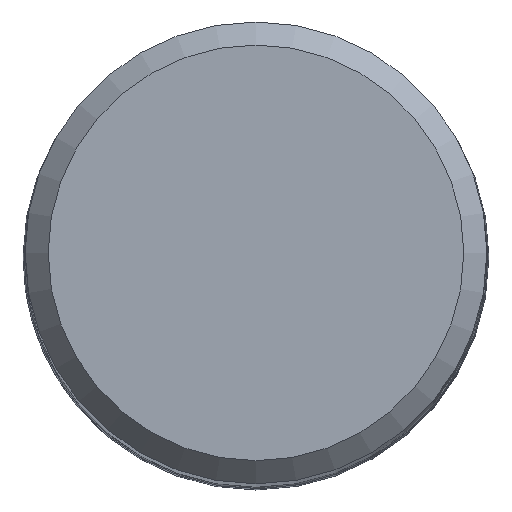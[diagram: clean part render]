
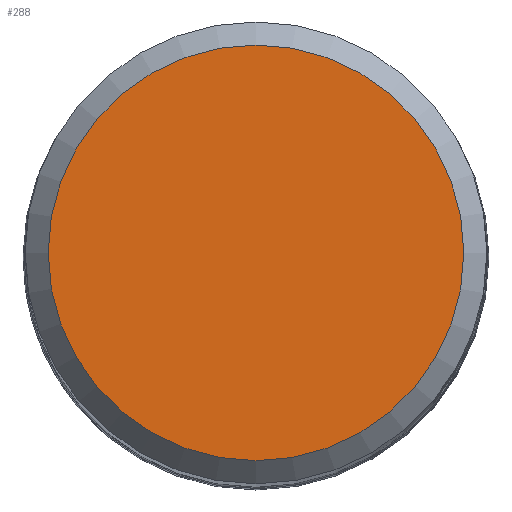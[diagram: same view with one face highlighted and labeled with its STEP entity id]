
A CAD part, top view. The second image highlights one B-rep face of the part: STEP entity #288.
In plain terms, the highlighted planar face has unit normal (0, 0, 1).
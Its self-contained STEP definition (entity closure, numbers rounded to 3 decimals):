
#288=ADVANCED_FACE('',(#298),#294,.F.);
#294=PLANE('',#682);
#298=FACE_OUTER_BOUND('',#380,.T.);
#380=EDGE_LOOP('',(#466));
#466=ORIENTED_EDGE('',*,*,#555,.F.);
#512=VERTEX_POINT('',#1095);
#555=EDGE_CURVE('',#512,#512,#598,.T.);
#598=CIRCLE('',#681,4.5);
#681=AXIS2_PLACEMENT_3D('',#1094,#838,#839);
#682=AXIS2_PLACEMENT_3D('',#1096,#840,#841);
#838=DIRECTION('',(0.,0.,-1.));
#839=DIRECTION('',(-1.,0.,0.));
#840=DIRECTION('',(0.,0.,-1.));
#841=DIRECTION('',(-1.,0.,0.));
#1094=CARTESIAN_POINT('',(0.,0.,38.));
#1095=CARTESIAN_POINT('',(-4.5,0.,38.));
#1096=CARTESIAN_POINT('',(0.,0.,38.));
